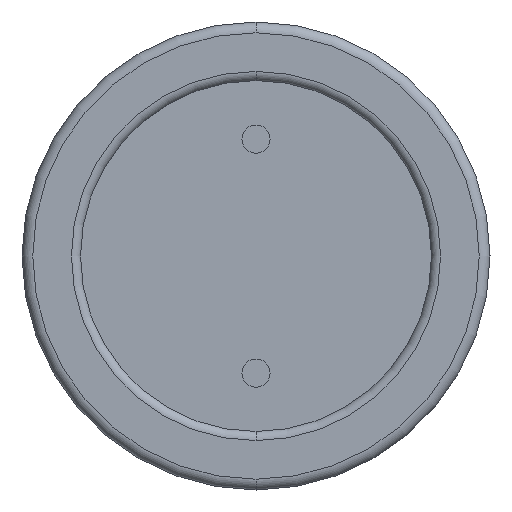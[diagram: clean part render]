
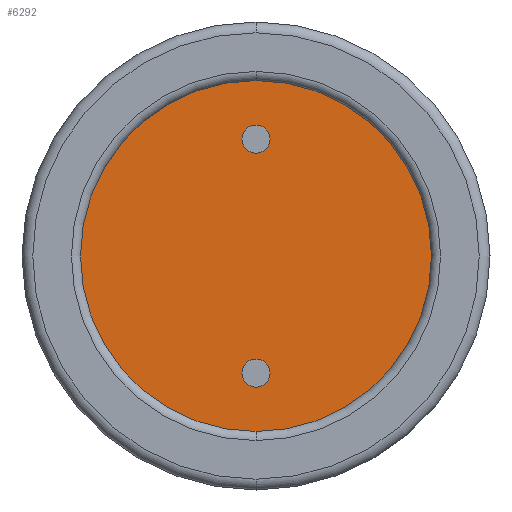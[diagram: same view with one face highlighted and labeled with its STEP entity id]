
A CAD part, left-side view. The second image highlights one B-rep face of the part: STEP entity #6292.
In plain terms, the highlighted planar face has unit normal (-1, 0, 0).
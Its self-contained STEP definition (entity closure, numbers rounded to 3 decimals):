
#40=CARTESIAN_POINT('',(-7.8,0.,0.002));
#41=DIRECTION('',(-1.,0.,0.));
#42=DIRECTION('',(0.,0.,-1.));
#43=AXIS2_PLACEMENT_3D('',#40,#41,#42);
#45=CARTESIAN_POINT('',(-7.8,0.,0.002));
#46=DIRECTION('',(1.,0.,0.));
#47=DIRECTION('',(0.,0.,-1.));
#48=AXIS2_PLACEMENT_3D('',#45,#46,#47);
#50=CARTESIAN_POINT('',(-7.8,0.,-2.5));
#51=DIRECTION('',(-1.,0.,0.));
#52=DIRECTION('',(0.,0.,-1.));
#53=AXIS2_PLACEMENT_3D('',#50,#51,#52);
#55=CARTESIAN_POINT('',(-7.8,0.,-2.5));
#56=DIRECTION('',(-1.,0.,0.));
#57=DIRECTION('',(0.,0.,1.));
#58=AXIS2_PLACEMENT_3D('',#55,#56,#57);
#60=CARTESIAN_POINT('',(-7.8,0.,2.5));
#61=DIRECTION('',(-1.,0.,0.));
#62=DIRECTION('',(0.,0.,-1.));
#63=AXIS2_PLACEMENT_3D('',#60,#61,#62);
#65=CARTESIAN_POINT('',(-7.8,0.,2.5));
#66=DIRECTION('',(-1.,0.,0.));
#67=DIRECTION('',(0.,0.,1.));
#68=AXIS2_PLACEMENT_3D('',#65,#66,#67);
#4745=CARTESIAN_POINT('',(-7.8,0.,-3.748));
#4746=VERTEX_POINT('',#4745);
#4747=CARTESIAN_POINT('',(-7.8,0.,3.752));
#4748=VERTEX_POINT('',#4747);
#4753=CARTESIAN_POINT('',(-7.8,0.,-2.8));
#4754=CARTESIAN_POINT('',(-7.8,0.,-2.2));
#4755=VERTEX_POINT('',#4753);
#4756=VERTEX_POINT('',#4754);
#4757=CARTESIAN_POINT('',(-7.8,0.,2.2));
#4758=CARTESIAN_POINT('',(-7.8,0.,2.8));
#4759=VERTEX_POINT('',#4757);
#4760=VERTEX_POINT('',#4758);
#6271=CARTESIAN_POINT('',(-7.8,0.,0.002));
#6272=DIRECTION('',(1.,0.,0.));
#6273=DIRECTION('',(0.,0.,1.));
#6274=AXIS2_PLACEMENT_3D('',#6271,#6272,#6273);
#6275=PLANE('',#6274);
#6276=ORIENTED_EDGE('',*,*,#6250,.F.);
#6277=ORIENTED_EDGE('',*,*,#6266,.T.);
#6278=EDGE_LOOP('',(#6276,#6277));
#6279=FACE_OUTER_BOUND('',#6278,.F.);
#6281=ORIENTED_EDGE('',*,*,#6280,.T.);
#6283=ORIENTED_EDGE('',*,*,#6282,.T.);
#6284=EDGE_LOOP('',(#6281,#6283));
#6285=FACE_BOUND('',#6284,.F.);
#6287=ORIENTED_EDGE('',*,*,#6286,.T.);
#6289=ORIENTED_EDGE('',*,*,#6288,.T.);
#6290=EDGE_LOOP('',(#6287,#6289));
#6291=FACE_BOUND('',#6290,.F.);
#6292=ADVANCED_FACE('',(#6279,#6285,#6291),#6275,.F.);
#44=CIRCLE('',#43,3.75);
#49=CIRCLE('',#48,3.75);
#54=CIRCLE('',#53,0.3);
#59=CIRCLE('',#58,0.3);
#64=CIRCLE('',#63,0.3);
#69=CIRCLE('',#68,0.3);
#6250=EDGE_CURVE('',#4746,#4748,#44,.T.);
#6266=EDGE_CURVE('',#4746,#4748,#49,.T.);
#6280=EDGE_CURVE('',#4755,#4756,#54,.T.);
#6282=EDGE_CURVE('',#4756,#4755,#59,.T.);
#6286=EDGE_CURVE('',#4759,#4760,#64,.T.);
#6288=EDGE_CURVE('',#4760,#4759,#69,.T.);
